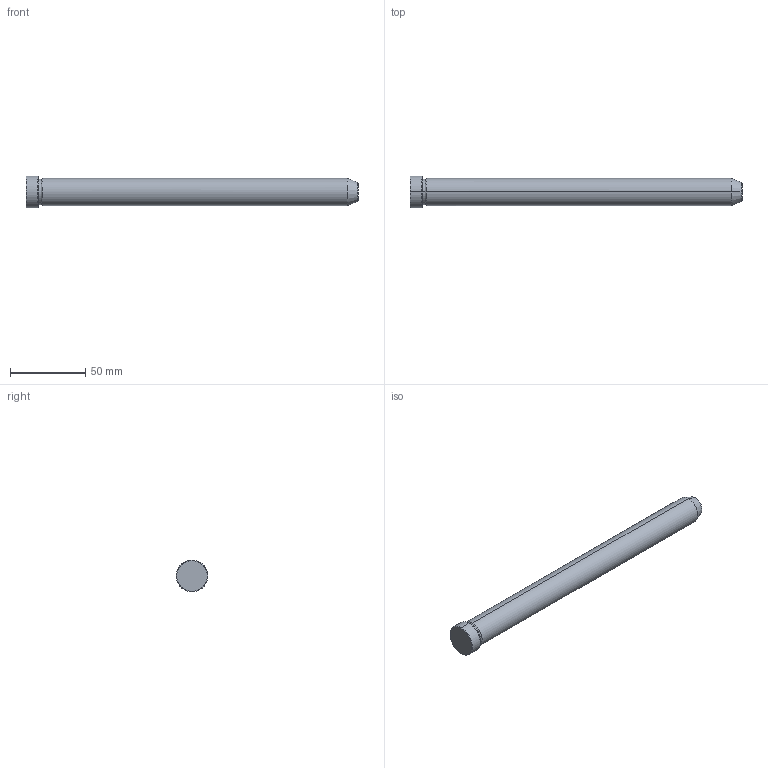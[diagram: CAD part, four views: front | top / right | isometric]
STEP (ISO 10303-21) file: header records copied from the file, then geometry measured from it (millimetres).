
FILE_DESCRIPTION(('CATIA V5 STEP Exchange'),'2;1');
FILE_NAME('C:\Users\Utente\Desktop\IO LAVORO\3D X SITO CF\X SITO\PLASTICA\549\549-18X220.stp','2021-12-11T09:38:02+00:00',('none'),('none'),'CATIA Version 5 Release 20 GA (IN-10)','CATIA V5 STEP AP203','none');
FILE_SCHEMA(('CONFIG_CONTROL_DESIGN'));
Length unit declared in the file: millimetre
Products named in the file (1): 549-18X220
Bounding box: 220 x 21 x 21 mm (x, y, z)
Volume: 56141.2 mm3; surface area: 13035.3 mm2
Topology: 1 solids, 1 shells, 19 faces, 56 edges, 40 vertices
Faces by surface type: cone 8, cylinder 6, plane 3, torus 2
Entity records: 736 total; most frequent: CARTESIAN_POINT 192, ORIENTED_EDGE 112, DIRECTION 86, EDGE_CURVE 56, AXIS2_PLACEMENT_3D 54, VERTEX_POINT 40, CIRCLE 34, EDGE_LOOP 20
